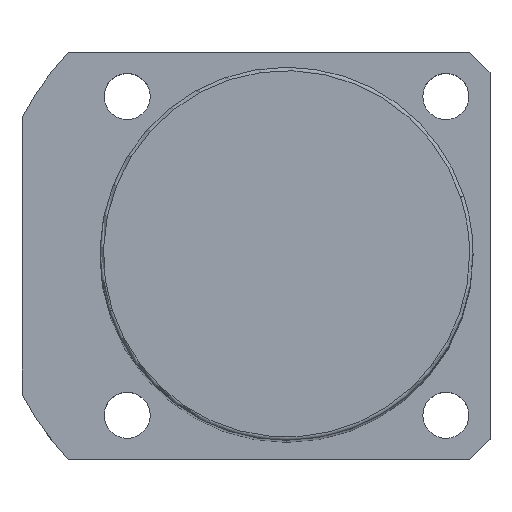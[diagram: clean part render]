
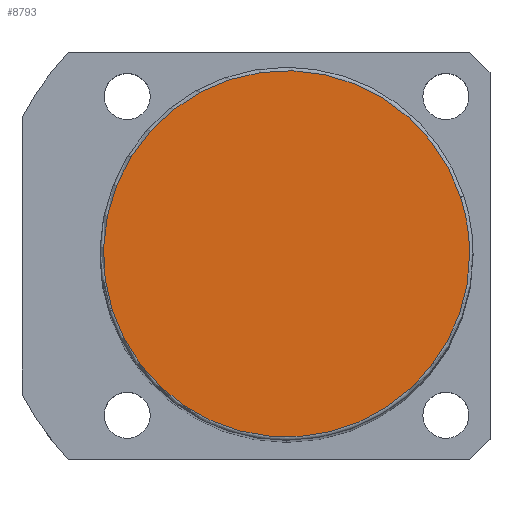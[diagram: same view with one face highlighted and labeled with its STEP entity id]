
A CAD part, top view. The second image highlights one B-rep face of the part: STEP entity #8793.
In plain terms, the highlighted planar face has unit normal (0, 0, 1).
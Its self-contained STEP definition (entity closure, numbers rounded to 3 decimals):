
#8726=CARTESIAN_POINT('',(25.679,8.343,186.0));
#8727=VERTEX_POINT('',#8726);
#8745=CARTESIAN_POINT('',(-25.679,-8.343,186.0));
#8746=VERTEX_POINT('',#8745);
#8754=CARTESIAN_POINT('',(0.0,0.0,186.0));
#8755=DIRECTION('',(0.0,0.0,1.0));
#8756=DIRECTION('',(1.0,0.0,0.0));
#8757=AXIS2_PLACEMENT_3D('',#8754,#8755,#8756);
#8758=CIRCLE('',#8757,27.0);
#8759=EDGE_CURVE('no 4622',#8727,#8746,#8758,.T.);
#8769=CARTESIAN_POINT('',(27.0,0.0,186.0));
#8770=VERTEX_POINT('',#8769);
#8771=CARTESIAN_POINT('',(0.0,0.0,186.0));
#8772=DIRECTION('',(0.0,0.0,1.0));
#8773=DIRECTION('',(1.0,0.0,0.0));
#8774=AXIS2_PLACEMENT_3D('',#8771,#8772,#8773);
#8775=CIRCLE('',#8774,27.0);
#8776=EDGE_CURVE('no 4631',#8770,#8727,#8775,.T.);
#8777=ORIENTED_EDGE('',*,*,#8776,.T.);
#8778=ORIENTED_EDGE('',*,*,#8759,.T.);
#8779=CARTESIAN_POINT('',(0.0,0.0,186.0));
#8780=DIRECTION('',(0.0,0.0,1.0));
#8781=DIRECTION('',(1.0,0.0,0.0));
#8782=AXIS2_PLACEMENT_3D('',#8779,#8780,#8781);
#8783=CIRCLE('',#8782,27.0);
#8784=EDGE_CURVE('no 4637',#8746,#8770,#8783,.T.);
#8785=ORIENTED_EDGE('',*,*,#8784,.T.);
#8786=EDGE_LOOP('',(#8777,#8778,#8785));
#8787=FACE_OUTER_BOUND('',#8786,.T.);
#8788=CARTESIAN_POINT('',(0.0,0.0,186.0));
#8789=DIRECTION('',(0.0,0.0,1.0));
#8790=DIRECTION('',(1.0,0.0,0.0));
#8791=AXIS2_PLACEMENT_3D('',#8788,#8789,#8790);
#8792=PLANE('',#8791);
#8793=ADVANCED_FACE('no 4624',(#8787),#8792,.T.);
